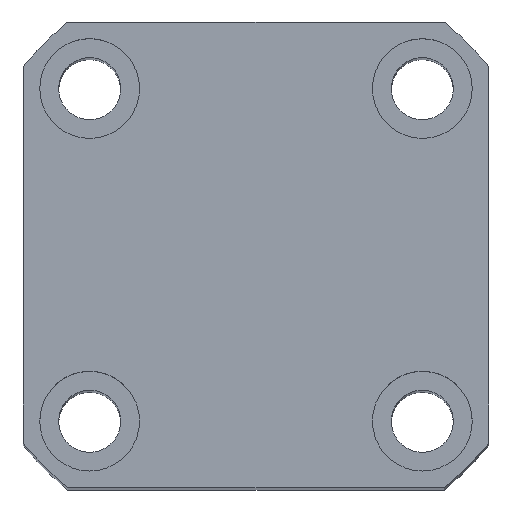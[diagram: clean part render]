
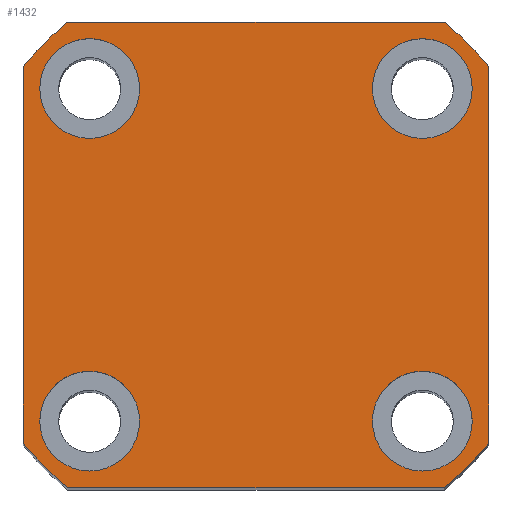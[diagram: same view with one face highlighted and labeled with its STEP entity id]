
A CAD part, top view. The second image highlights one B-rep face of the part: STEP entity #1432.
In plain terms, the highlighted planar face has unit normal (0, 0, 1).
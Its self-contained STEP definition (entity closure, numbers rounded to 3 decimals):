
#29 = EDGE_LOOP ( 'NONE', ( #6997, #429 ) ) ;
#46 = CARTESIAN_POINT ( 'NONE',  ( -19.5, 15.002, 118. ) ) ;
#130 = DIRECTION ( 'NONE',  ( 0., 0., 1. ) ) ;
#225 = CARTESIAN_POINT ( 'NONE',  ( -21., 16.971, 118. ) ) ;
#230 = CARTESIAN_POINT ( 'NONE',  ( -15., 15.002, 118. ) ) ;
#247 = EDGE_CURVE ( 'NONE', #4383, #5998, #4291, .T. ) ;
#296 = VERTEX_POINT ( 'NONE', #13405 ) ;
#332 = CIRCLE ( 'NONE', #8747, 4.5 ) ;
#429 = ORIENTED_EDGE ( 'NONE', *, *, #13369, .F. ) ;
#610 = CIRCLE ( 'NONE', #10474, 4.5 ) ;
#747 = DIRECTION ( 'NONE',  ( 0., 0., 1. ) ) ;
#754 = FACE_BOUND ( 'NONE', #29, .T. ) ;
#793 = AXIS2_PLACEMENT_3D ( 'NONE', #10885, #4421, #11967 ) ;
#942 = DIRECTION ( 'NONE',  ( 0., 0., 1. ) ) ;
#975 = VERTEX_POINT ( 'NONE', #12852 ) ;
#1031 = CARTESIAN_POINT ( 'NONE',  ( 0., 0., 118. ) ) ;
#1063 = EDGE_CURVE ( 'NONE', #3868, #296, #1753, .T. ) ;
#1208 = EDGE_LOOP ( 'NONE', ( #7154, #11374 ) ) ;
#1303 = DIRECTION ( 'NONE',  ( 1., 0., 0. ) ) ;
#1432 = ADVANCED_FACE ( 'NONE', ( #11187, #754, #2583, #5448, #13658 ), #13777, .T. ) ;
#1479 = EDGE_CURVE ( 'NONE', #5998, #5895, #10853, .T. ) ;
#1590 = CARTESIAN_POINT ( 'NONE',  ( -15., 15.002, 118. ) ) ;
#1666 = AXIS2_PLACEMENT_3D ( 'NONE', #6370, #13861, #7473 ) ;
#1709 = CARTESIAN_POINT ( 'NONE',  ( -21., 21., 118. ) ) ;
#1737 = CARTESIAN_POINT ( 'NONE',  ( -16.971, 21., 118. ) ) ;
#1749 = DIRECTION ( 'NONE',  ( 0., -1., 0. ) ) ;
#1753 = CIRCLE ( 'NONE', #8211, 27. ) ;
#1886 = DIRECTION ( 'NONE',  ( -1., 0., 0. ) ) ;
#1971 = CARTESIAN_POINT ( 'NONE',  ( -10.5, -14.998, 118. ) ) ;
#2075 = DIRECTION ( 'NONE',  ( 1., 0., 0. ) ) ;
#2129 = VERTEX_POINT ( 'NONE', #46 ) ;
#2219 = EDGE_CURVE ( 'NONE', #13231, #9201, #610, .T. ) ;
#2299 = EDGE_CURVE ( 'NONE', #4873, #9069, #8514, .T. ) ;
#2407 = CARTESIAN_POINT ( 'NONE',  ( 21., 21., 118. ) ) ;
#2489 = CARTESIAN_POINT ( 'NONE',  ( 16.971, -21., 118. ) ) ;
#2516 = ORIENTED_EDGE ( 'NONE', *, *, #12632, .T. ) ;
#2583 = FACE_BOUND ( 'NONE', #7167, .T. ) ;
#2599 = ORIENTED_EDGE ( 'NONE', *, *, #11133, .F. ) ;
#2656 = DIRECTION ( 'NONE',  ( 1., 0., 0. ) ) ;
#2731 = DIRECTION ( 'NONE',  ( 0., 0., 1. ) ) ;
#2744 = AXIS2_PLACEMENT_3D ( 'NONE', #1031, #8564, #2075 ) ;
#2897 = LINE ( 'NONE', #2407, #8314 ) ;
#3308 = CARTESIAN_POINT ( 'NONE',  ( 0., 0., 118. ) ) ;
#3369 = AXIS2_PLACEMENT_3D ( 'NONE', #12309, #5855, #13367 ) ;
#3568 = VECTOR ( 'NONE', #1886, 1000. ) ;
#3678 = CIRCLE ( 'NONE', #3369, 4.5 ) ;
#3680 = ORIENTED_EDGE ( 'NONE', *, *, #4787, .T. ) ;
#3850 = CARTESIAN_POINT ( 'NONE',  ( 19.5, 15., 118. ) ) ;
#3864 = ORIENTED_EDGE ( 'NONE', *, *, #7806, .T. ) ;
#3868 = VERTEX_POINT ( 'NONE', #11769 ) ;
#3958 = ORIENTED_EDGE ( 'NONE', *, *, #5372, .T. ) ;
#4174 = CARTESIAN_POINT ( 'NONE',  ( -21., -16.971, 118. ) ) ;
#4212 = CARTESIAN_POINT ( 'NONE',  ( 0., 0., 118. ) ) ;
#4250 = VECTOR ( 'NONE', #1749, 1000. ) ;
#4291 = LINE ( 'NONE', #13770, #6828 ) ;
#4383 = VERTEX_POINT ( 'NONE', #10779 ) ;
#4396 = DIRECTION ( 'NONE',  ( 1., 0., 0. ) ) ;
#4421 = DIRECTION ( 'NONE',  ( 0., 0., 1. ) ) ;
#4688 = EDGE_CURVE ( 'NONE', #5300, #10449, #12832, .T. ) ;
#4787 = EDGE_CURVE ( 'NONE', #296, #11874, #6443, .T. ) ;
#4792 = ORIENTED_EDGE ( 'NONE', *, *, #5832, .F. ) ;
#4873 = VERTEX_POINT ( 'NONE', #1971 ) ;
#5286 = DIRECTION ( 'NONE',  ( 1., 0., 0. ) ) ;
#5300 = VERTEX_POINT ( 'NONE', #225 ) ;
#5372 = EDGE_CURVE ( 'NONE', #5895, #3868, #2897, .T. ) ;
#5392 = CIRCLE ( 'NONE', #5479, 27. ) ;
#5413 = CARTESIAN_POINT ( 'NONE',  ( 15., 15., 118. ) ) ;
#5448 = FACE_BOUND ( 'NONE', #7583, .T. ) ;
#5479 = AXIS2_PLACEMENT_3D ( 'NONE', #7191, #747, #8283 ) ;
#5500 = CARTESIAN_POINT ( 'NONE',  ( 10.5, 15., 118. ) ) ;
#5563 = EDGE_LOOP ( 'NONE', ( #3958, #7759, #3680, #2516, #11455, #3864, #13753, #11614 ) ) ;
#5832 = EDGE_CURVE ( 'NONE', #10227, #7502, #6609, .T. ) ;
#5855 = DIRECTION ( 'NONE',  ( 0., 0., 1. ) ) ;
#5895 = VERTEX_POINT ( 'NONE', #7742 ) ;
#5998 = VERTEX_POINT ( 'NONE', #2489 ) ;
#6300 = CARTESIAN_POINT ( 'NONE',  ( 19.5, -14.998, 118. ) ) ;
#6370 = CARTESIAN_POINT ( 'NONE',  ( 15., 15., 118. ) ) ;
#6443 = LINE ( 'NONE', #8353, #3568 ) ;
#6499 = DIRECTION ( 'NONE',  ( 1., 0., 0. ) ) ;
#6561 = CARTESIAN_POINT ( 'NONE',  ( 15., -14.998, 118. ) ) ;
#6609 = CIRCLE ( 'NONE', #8101, 4.5 ) ;
#6828 = VECTOR ( 'NONE', #11652, 1000. ) ;
#6997 = ORIENTED_EDGE ( 'NONE', *, *, #2299, .F. ) ;
#7060 = CIRCLE ( 'NONE', #793, 4.5 ) ;
#7154 = ORIENTED_EDGE ( 'NONE', *, *, #13545, .F. ) ;
#7167 = EDGE_LOOP ( 'NONE', ( #12520, #10698 ) ) ;
#7191 = CARTESIAN_POINT ( 'NONE',  ( 0., 0., 118. ) ) ;
#7408 = AXIS2_PLACEMENT_3D ( 'NONE', #4212, #11756, #5286 ) ;
#7473 = DIRECTION ( 'NONE',  ( 1., 0., 0. ) ) ;
#7502 = VERTEX_POINT ( 'NONE', #5500 ) ;
#7583 = EDGE_LOOP ( 'NONE', ( #4792, #2599 ) ) ;
#7657 = DIRECTION ( 'NONE',  ( 1., 0., 0. ) ) ;
#7742 = CARTESIAN_POINT ( 'NONE',  ( 21., -16.971, 118. ) ) ;
#7759 = ORIENTED_EDGE ( 'NONE', *, *, #1063, .T. ) ;
#7762 = DIRECTION ( 'NONE',  ( 0., 0., 1. ) ) ;
#7806 = EDGE_CURVE ( 'NONE', #10449, #4383, #5392, .T. ) ;
#8101 = AXIS2_PLACEMENT_3D ( 'NONE', #5413, #12930, #6499 ) ;
#8140 = AXIS2_PLACEMENT_3D ( 'NONE', #9406, #942, #8474 ) ;
#8211 = AXIS2_PLACEMENT_3D ( 'NONE', #3308, #10854, #4396 ) ;
#8240 = EDGE_CURVE ( 'NONE', #2129, #975, #13442, .T. ) ;
#8283 = DIRECTION ( 'NONE',  ( 1., 0., 0. ) ) ;
#8314 = VECTOR ( 'NONE', #13130, 1000. ) ;
#8353 = CARTESIAN_POINT ( 'NONE',  ( -21., 21., 118. ) ) ;
#8474 = DIRECTION ( 'NONE',  ( 1., 0., 0. ) ) ;
#8514 = CIRCLE ( 'NONE', #11917, 4.5 ) ;
#8564 = DIRECTION ( 'NONE',  ( 0., 0., 1. ) ) ;
#8747 = AXIS2_PLACEMENT_3D ( 'NONE', #1590, #9146, #2656 ) ;
#9069 = VERTEX_POINT ( 'NONE', #13065 ) ;
#9146 = DIRECTION ( 'NONE',  ( 0., 0., 1. ) ) ;
#9201 = VERTEX_POINT ( 'NONE', #6300 ) ;
#9220 = CARTESIAN_POINT ( 'NONE',  ( -15., -14.998, 118. ) ) ;
#9406 = CARTESIAN_POINT ( 'NONE',  ( 0., 0., 118. ) ) ;
#9429 = CARTESIAN_POINT ( 'NONE',  ( 10.5, -14.998, 118. ) ) ;
#9554 = AXIS2_PLACEMENT_3D ( 'NONE', #230, #7762, #1303 ) ;
#10227 = VERTEX_POINT ( 'NONE', #3850 ) ;
#10272 = DIRECTION ( 'NONE',  ( 1., 0., 0. ) ) ;
#10429 = CIRCLE ( 'NONE', #2744, 27. ) ;
#10449 = VERTEX_POINT ( 'NONE', #4174 ) ;
#10474 = AXIS2_PLACEMENT_3D ( 'NONE', #6561, #130, #7657 ) ;
#10698 = ORIENTED_EDGE ( 'NONE', *, *, #2219, .F. ) ;
#10710 = EDGE_CURVE ( 'NONE', #9201, #13231, #3678, .T. ) ;
#10779 = CARTESIAN_POINT ( 'NONE',  ( -16.971, -21., 118. ) ) ;
#10853 = CIRCLE ( 'NONE', #7408, 27. ) ;
#10854 = DIRECTION ( 'NONE',  ( 0., 0., 1. ) ) ;
#10885 = CARTESIAN_POINT ( 'NONE',  ( -15., -14.998, 118. ) ) ;
#10945 = CIRCLE ( 'NONE', #1666, 4.5 ) ;
#11133 = EDGE_CURVE ( 'NONE', #7502, #10227, #10945, .T. ) ;
#11187 = FACE_BOUND ( 'NONE', #1208, .T. ) ;
#11374 = ORIENTED_EDGE ( 'NONE', *, *, #8240, .F. ) ;
#11455 = ORIENTED_EDGE ( 'NONE', *, *, #4688, .T. ) ;
#11614 = ORIENTED_EDGE ( 'NONE', *, *, #1479, .T. ) ;
#11652 = DIRECTION ( 'NONE',  ( 1., 0., 0. ) ) ;
#11756 = DIRECTION ( 'NONE',  ( 0., 0., 1. ) ) ;
#11769 = CARTESIAN_POINT ( 'NONE',  ( 21., 16.971, 118. ) ) ;
#11874 = VERTEX_POINT ( 'NONE', #1737 ) ;
#11917 = AXIS2_PLACEMENT_3D ( 'NONE', #9220, #2731, #10272 ) ;
#11967 = DIRECTION ( 'NONE',  ( 1., 0., 0. ) ) ;
#12309 = CARTESIAN_POINT ( 'NONE',  ( 15., -14.998, 118. ) ) ;
#12520 = ORIENTED_EDGE ( 'NONE', *, *, #10710, .F. ) ;
#12632 = EDGE_CURVE ( 'NONE', #11874, #5300, #10429, .T. ) ;
#12832 = LINE ( 'NONE', #1709, #4250 ) ;
#12852 = CARTESIAN_POINT ( 'NONE',  ( -10.5, 15.002, 118. ) ) ;
#12930 = DIRECTION ( 'NONE',  ( 0., 0., 1. ) ) ;
#13065 = CARTESIAN_POINT ( 'NONE',  ( -19.5, -14.998, 118. ) ) ;
#13130 = DIRECTION ( 'NONE',  ( 0., 1., 0. ) ) ;
#13231 = VERTEX_POINT ( 'NONE', #9429 ) ;
#13367 = DIRECTION ( 'NONE',  ( 1., 0., 0. ) ) ;
#13369 = EDGE_CURVE ( 'NONE', #9069, #4873, #7060, .T. ) ;
#13405 = CARTESIAN_POINT ( 'NONE',  ( 16.971, 21., 118. ) ) ;
#13442 = CIRCLE ( 'NONE', #9554, 4.5 ) ;
#13545 = EDGE_CURVE ( 'NONE', #975, #2129, #332, .T. ) ;
#13658 = FACE_OUTER_BOUND ( 'NONE', #5563, .T. ) ;
#13753 = ORIENTED_EDGE ( 'NONE', *, *, #247, .T. ) ;
#13770 = CARTESIAN_POINT ( 'NONE',  ( -21., -21., 118. ) ) ;
#13777 = PLANE ( 'NONE',  #8140 ) ;
#13861 = DIRECTION ( 'NONE',  ( 0., 0., 1. ) ) ;
